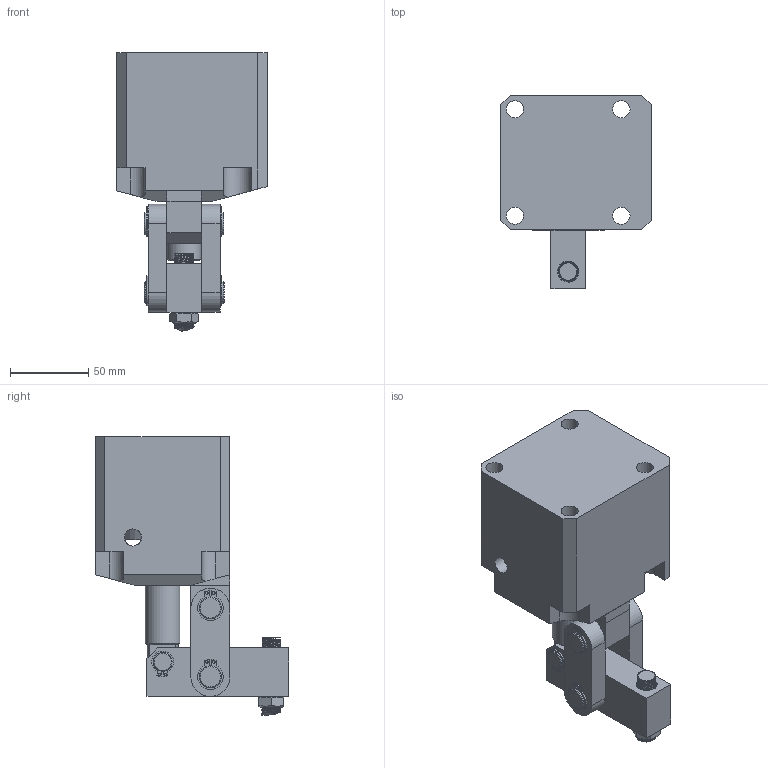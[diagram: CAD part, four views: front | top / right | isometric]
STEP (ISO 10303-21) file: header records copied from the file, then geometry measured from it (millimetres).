
FILE_DESCRIPTION(/* description */ ('STEP AP214'),/* implementation_level */ '2;1');
FILE_NAME(/* name */ 'D:\Vault_2016\Projekty\Clamptek\Hydraulic\CBLU\CBLU-55\STEP\CBLU-55R.stp',/* time_stamp */ '2021-05-06T12:58:08+02:00',/* author */ ('user'),/* organization */ (''),/* preprocessor_version */ 'ST-DEVELOPER v18.1',/* originating_system */ 'Autodesk Inventor 2021',/* authorisation */ '');
FILE_SCHEMA (('AUTOMOTIVE_DESIGN { 1 0 10303 214 3 1 1 }'));
Products named in the file (11): CBLU-55R; CBLU-55CR±¾Ìå_1_1; duanxiao; huosaigan_3_1; luogan; luomu; yabi; liangan; changxiao; kahuang01; kahuang
Assembly tree (16 placements, depth 2):
  CBLU-55R
    CBLU-55CR±¾Ìå_1_1
    changxiao  x2
    duanxiao
    huosaigan_3_1
    kahuang  x4
    kahuang01  x2
    liangan  x2
    luogan
    luomu
    yabi
Bounding box: 96 x 123.5 x 178.2 mm (x, y, z)
Volume: 688867.1 mm3; surface area: 128795.8 mm2
Topology: 17 solids, 166 shells, 455 faces, 1364 edges, 1082 vertices
Faces by surface type: cylinder 273, plane 139, cone 23, bspline 20
Full cylindrical faces by diameter (mm): 1.479 x4, 1.725 x8, 4 x3, 11 x24, 11.5 x6, 12 x6, 13 x4, 14 x12, 22 x2, 33.366 x1, 34.766 x1, 55 x2
Entity records: 115592 total; most frequent: CARTESIAN_POINT 106001, ORIENTED_EDGE 1700, DIRECTION 1466, EDGE_CURVE 1135, VERTEX_POINT 935, B_SPLINE_CURVE_WITH_KNOTS 554, AXIS2_PLACEMENT_3D 530, EDGE_LOOP 416
